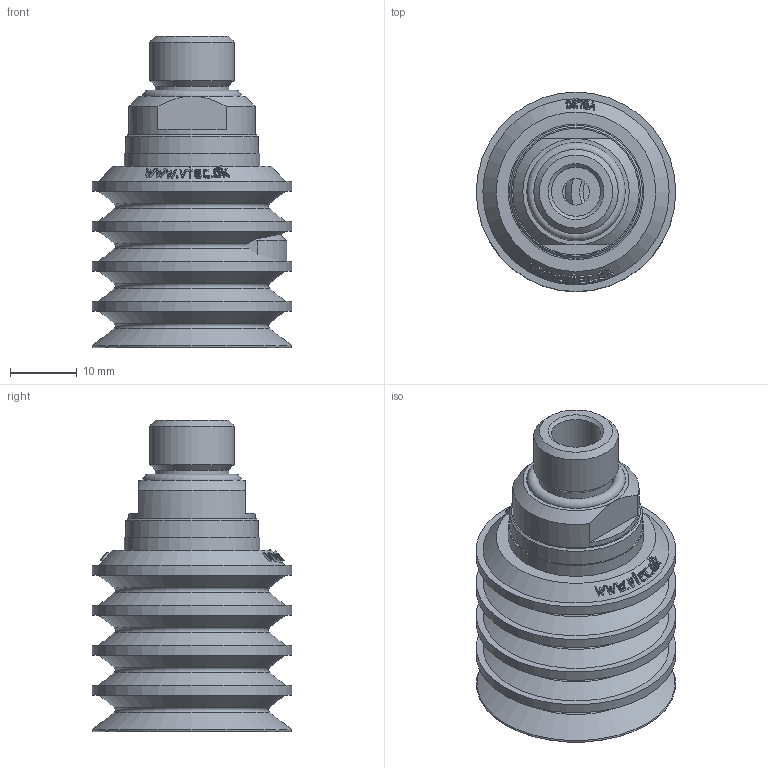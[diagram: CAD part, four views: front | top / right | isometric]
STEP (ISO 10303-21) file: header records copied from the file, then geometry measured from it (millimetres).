
FILE_DESCRIPTION( ( 'STEP AP203' ), '1' );
FILE_NAME( 'C:/撲啗紫賊-02/3D-蘋驍煎斜/Vacuum Pad/VBL series/VBL30-14M.stp', '2006-04-24T11:48:10', ( ' ' ), ( ' ' ), 'XStep 1.0', ' ', ' ' );
FILE_SCHEMA( ( 'CONFIG_CONTROL_DESIGN) ( )' ) );
Length unit declared in the file: metre
Products named in the file (3): Assem1; 1; 2
Bounding box: 30 x 30 x 46.8 mm (x, y, z)
Volume: 13761.7 mm3; surface area: 20686.5 mm2
Topology: 4 solids, 4 shells, 472 faces, 1080 edges, 702 vertices
Faces by surface type: bspline 258, cone 98, plane 64, cylinder 40, torus 12
Full cylindrical faces by diameter (mm): 4 x2, 6.2 x2, 6.5 x2, 7 x2, 7.4 x2, 8 x6, 9 x2, 11 x4, 11.5 x2, 12.7 x2, 19 x2, 20 x2, 20.4 x2, 30 x8
Entity records: 10325 total; most frequent: CARTESIAN_POINT 5953, ORIENTED_EDGE 968, DIRECTION 498, EDGE_CURVE 484, VERTEX_POINT 349, EDGE_LOOP 337, B_SPLINE_CURVE_WITH_KNOTS 289, FACE_OUTER_BOUND 264
